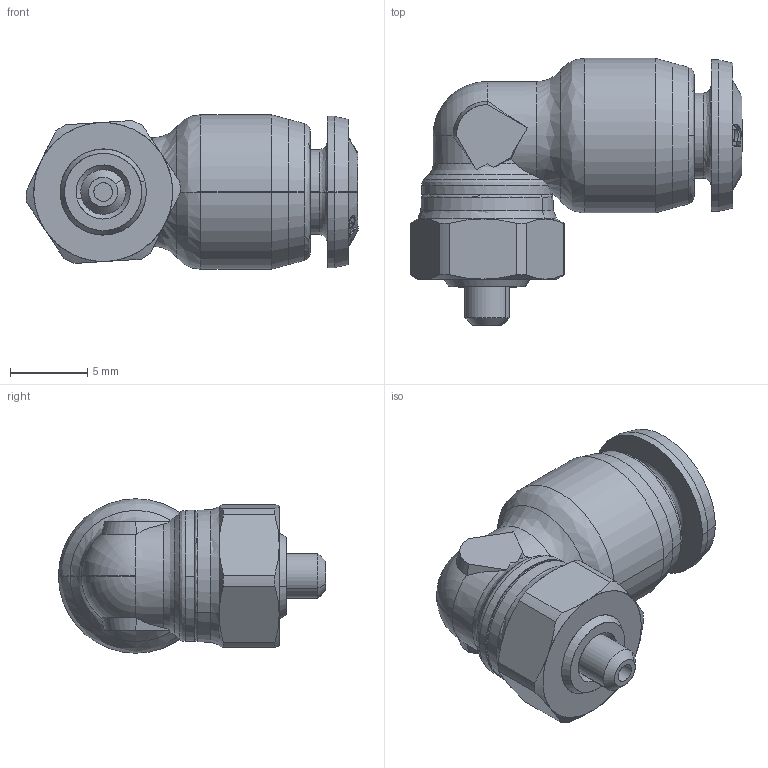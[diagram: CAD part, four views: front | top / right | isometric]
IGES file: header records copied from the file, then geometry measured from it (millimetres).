
Start section: SolidWorks IGES file using analytic representation for surfaces
Global section: file name: K:\Disegni Esecutivi\Serie 55000\ASSIEMI_55000\55116\ASSIEMI_PIENI_55116\5511600001.IGS; native system: SolidWorks 2007; preprocessor: SolidWorks 2007; author: cad02; date: 071126.084719; units: millimetre
Bounding box: 21.5 x 17.3 x 10 mm (x, y, z)
Surface area: 1162.8 mm2 (no closed solid volume)
Topology: 0 solids, 0 shells, 251 faces, 2546 edges, 2544 vertices
Faces by surface type: bspline 167, revolution 84
